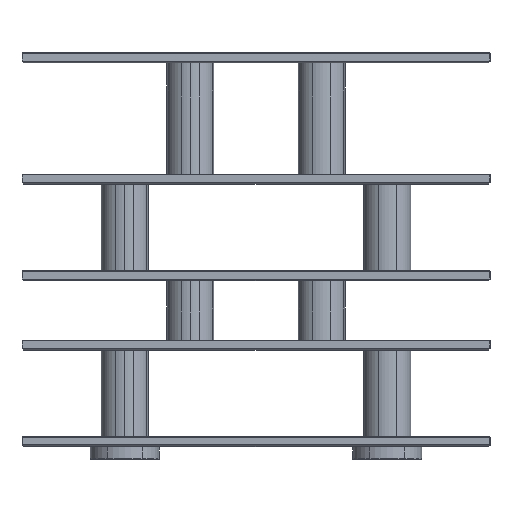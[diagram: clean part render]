
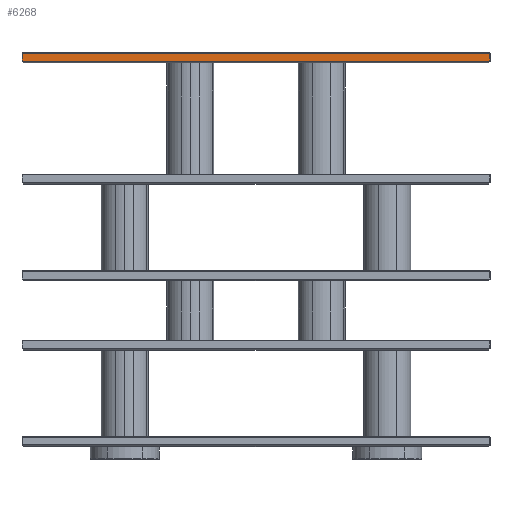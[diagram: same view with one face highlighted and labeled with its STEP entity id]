
A CAD part, top view. The second image highlights one B-rep face of the part: STEP entity #6268.
In plain terms, the highlighted planar face has unit normal (0, 0, 1).
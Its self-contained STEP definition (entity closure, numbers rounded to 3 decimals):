
#202 = LINE ( 'NONE', #7223, #5597 ) ;
#780 = LINE ( 'NONE', #3082, #8460 ) ;
#971 = ORIENTED_EDGE ( 'NONE', *, *, #4593, .T. ) ;
#1193 = LINE ( 'NONE', #1986, #8822 ) ;
#1273 = DIRECTION ( 'NONE',  ( 0., 0., -1. ) ) ;
#1277 = CARTESIAN_POINT ( 'NONE',  ( -943., 1607., 150. ) ) ;
#1604 = VERTEX_POINT ( 'NONE', #7402 ) ;
#1891 = CARTESIAN_POINT ( 'NONE',  ( -945., 1638., 150. ) ) ;
#1986 = CARTESIAN_POINT ( 'NONE',  ( -945., 1607., 150. ) ) ;
#2244 = EDGE_LOOP ( 'NONE', ( #7248, #4874, #7094, #971 ) ) ;
#3034 = VERTEX_POINT ( 'NONE', #7918 ) ;
#3082 = CARTESIAN_POINT ( 'NONE',  ( -943., 1640., 150. ) ) ;
#3330 = CARTESIAN_POINT ( 'NONE',  ( -945., 1640., 150. ) ) ;
#3981 = EDGE_CURVE ( 'NONE', #1604, #3034, #6281, .T. ) ;
#4306 = AXIS2_PLACEMENT_3D ( 'NONE', #3330, #1273, #7494 ) ;
#4405 = VECTOR ( 'NONE', #9037, 1000. ) ;
#4421 = DIRECTION ( 'NONE',  ( 0., 1., 0. ) ) ;
#4593 = EDGE_CURVE ( 'NONE', #3034, #9160, #780, .T. ) ;
#4874 = ORIENTED_EDGE ( 'NONE', *, *, #4972, .T. ) ;
#4972 = EDGE_CURVE ( 'NONE', #5129, #1604, #202, .T. ) ;
#5129 = VERTEX_POINT ( 'NONE', #5665 ) ;
#5597 = VECTOR ( 'NONE', #4421, 1000. ) ;
#5665 = CARTESIAN_POINT ( 'NONE',  ( 943., 1607., 150. ) ) ;
#6187 = DIRECTION ( 'NONE',  ( 1., 0., 0. ) ) ;
#6268 = ADVANCED_FACE ( 'NONE', ( #6835 ), #7632, .F. ) ;
#6281 = LINE ( 'NONE', #1891, #4405 ) ;
#6835 = FACE_OUTER_BOUND ( 'NONE', #2244, .T. ) ;
#7094 = ORIENTED_EDGE ( 'NONE', *, *, #3981, .T. ) ;
#7223 = CARTESIAN_POINT ( 'NONE',  ( 943., 1640., 150. ) ) ;
#7235 = DIRECTION ( 'NONE',  ( 0., -1., 0. ) ) ;
#7248 = ORIENTED_EDGE ( 'NONE', *, *, #8368, .T. ) ;
#7402 = CARTESIAN_POINT ( 'NONE',  ( 943., 1638., 150. ) ) ;
#7494 = DIRECTION ( 'NONE',  ( -1., 0., 0. ) ) ;
#7632 = PLANE ( 'NONE',  #4306 ) ;
#7918 = CARTESIAN_POINT ( 'NONE',  ( -943., 1638., 150. ) ) ;
#8368 = EDGE_CURVE ( 'NONE', #9160, #5129, #1193, .T. ) ;
#8460 = VECTOR ( 'NONE', #7235, 1000. ) ;
#8822 = VECTOR ( 'NONE', #6187, 1000. ) ;
#9037 = DIRECTION ( 'NONE',  ( -1., 0., 0. ) ) ;
#9160 = VERTEX_POINT ( 'NONE', #1277 ) ;
